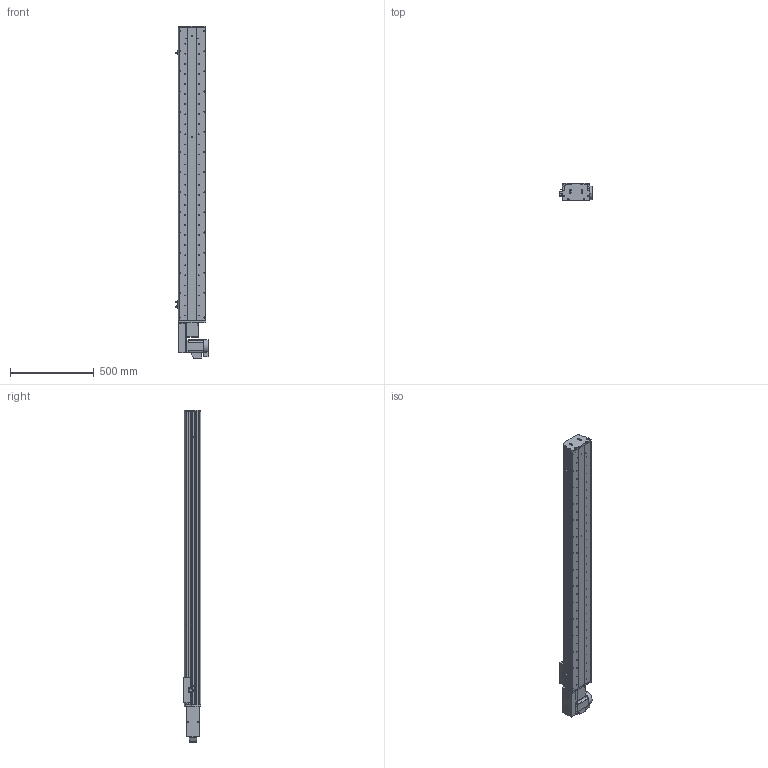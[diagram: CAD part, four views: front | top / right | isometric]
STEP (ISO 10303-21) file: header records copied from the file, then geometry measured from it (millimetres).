
FILE_DESCRIPTION (( 'STEP AP214' ), '1' );
FILE_NAME ('KSD165B-S1500-MLB-CM.STEP', '2017-10-16T06:34:34', ( '微软用户' ), ( '微软中国' ), 'SwSTEP 2.0', 'SolidWorks 2014', '' );
FILE_SCHEMA (( 'AUTOMOTIVE_DESIGN' ));
Length unit declared in the file: millimetre
Products named in the file (17): U倰嫖萇假蚾璃; U倰嫖萇EEㄜSX672; 覜茼え68遵圉猾敕; KSD165模组-同步带-防撞垫2; KSD165模组同步带-防撞垫1; KSD165耀郪-ヶ傷啣1-肮祭湍; KSD165模组-后端板1-同步带; KSD165模组-同步带滑动座-最新版; KSD165B-S1500-MLB-CM; HTPA26S5M250-A-H8 750W萇儂蚚; HTPA26S5M250-A-H8 400W萇儂蚚 ; 130宽模组马达安装板连板左右折同步带; 130宽模组保护罩上下左右折-同步带; 165宽马达安装板同步带左-改; KSD165模组-同步带防尘盖1-1500行程; KSD165模组同步带底板-1500行程; 拸秶雄ん750W侜督萇儂
Assembly tree (20 placements, depth 2):
  KSD165B-S1500-MLB-CM
    KSD165模组-同步带滑动座-最新版
    KSD165模组-后端板1-同步带
    KSD165耀郪-ヶ傷啣1-肮祭湍
    KSD165模组同步带-防撞垫1
    KSD165模组-同步带-防撞垫2
    覜茼え68遵圉猾敕
    U倰嫖萇EEㄜSX672  x3
    U倰嫖萇假蚾璃  x3
    拸秶雄ん750W侜督萇儂
    KSD165模组同步带底板-1500行程
    KSD165模组-同步带防尘盖1-1500行程
    165宽马达安装板同步带左-改
    130宽模组保护罩上下左右折-同步带
    130宽模组马达安装板连板左右折同步带
    HTPA26S5M250-A-H8 400W萇儂蚚 
    HTPA26S5M250-A-H8 750W萇儂蚚
Bounding box: 191.2 x 104 x 1978 mm (x, y, z)
Volume: 10173288.9 mm3; surface area: 2372870.3 mm2
Topology: 21 solids, 22 shells, 2051 faces, 5802 edges, 3792 vertices
Faces by surface type: cylinder 1341, plane 598, cone 112
Entity records: 67424 total; most frequent: CARTESIAN_POINT 13818, DIRECTION 11010, ORIENTED_EDGE 10264, EDGE_CURVE 5132, AXIS2_PLACEMENT_3D 4334, VERTEX_POINT 3384, CIRCLE 2480, LINE 2342
